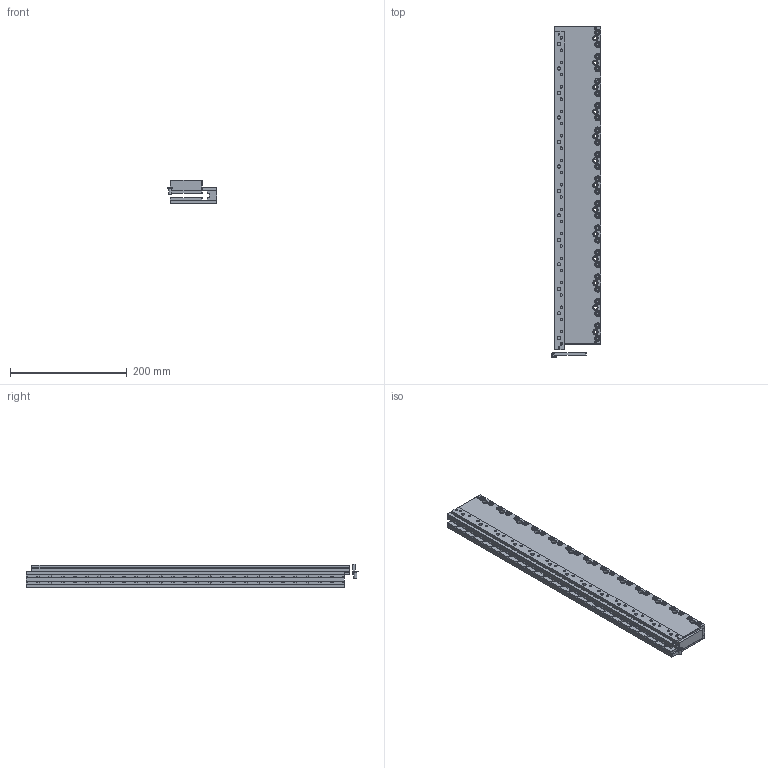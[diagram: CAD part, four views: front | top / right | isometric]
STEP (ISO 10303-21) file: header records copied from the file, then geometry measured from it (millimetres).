
FILE_DESCRIPTION( ( 'STEP AP214' ), '1' );
FILE_NAME( 'ML1500_02-X(546).stp', '2006-09-29T13:41:14', ( ' ' ), ( ' ' ), 'XStep 1.0', ' ', ' ' );
FILE_SCHEMA( ( 'CONFIG_CONTROL_DESIGN) ( )' ) );
Length unit declared in the file: metre
Products named in the file (6): Assem1; Assem2; 4022 363 50121; 4022 363 70203; 4022 363 82603; 2522 203 07034
Bounding box: 84.65 x 569.61 x 40.4 mm (x, y, z)
Volume: 1610281.8 mm3; surface area: 706127.5 mm2
Topology: 138 solids, 138 shells, 4206 faces, 10455 edges, 6474 vertices
Faces by surface type: cylinder 1940, plane 1321, torus 632, cone 313
Full cylindrical faces by diameter (mm): 3 x12, 4.2 x52, 5 x53, 5.5 x130, 9.2 x52, 9.3 x53
Entity records: 7340 total; most frequent: DIRECTION 1340, CARTESIAN_POINT 1320, ORIENTED_EDGE 922, AXIS2_PLACEMENT_3D 599, EDGE_LOOP 512, EDGE_CURVE 461, VERTEX_POINT 371, FACE_OUTER_BOUND 307
